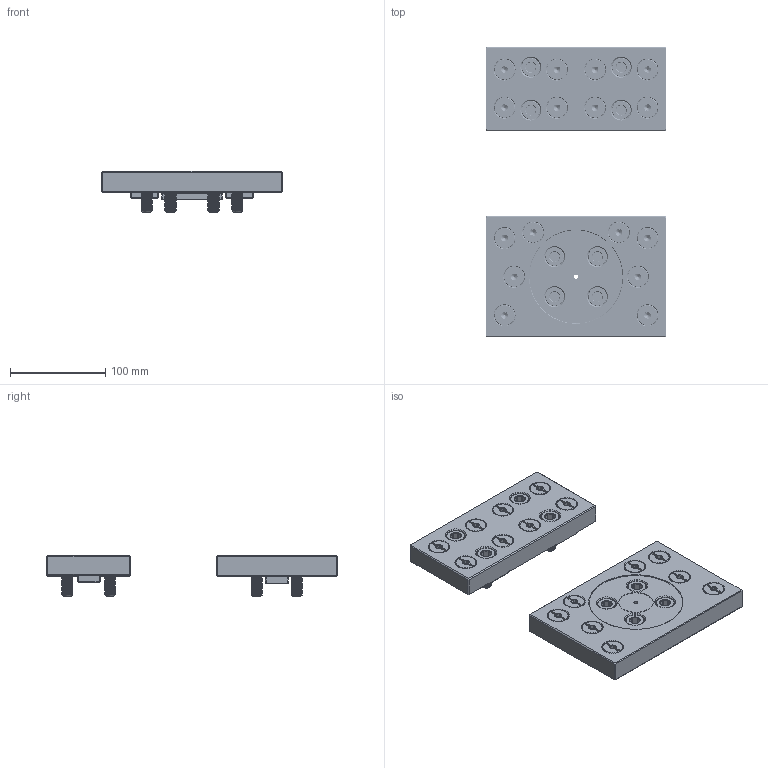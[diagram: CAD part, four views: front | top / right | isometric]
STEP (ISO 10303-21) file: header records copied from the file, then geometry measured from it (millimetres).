
FILE_DESCRIPTION(('STEP AP214'), '1');
FILE_NAME('BB.VS.130.32.010', '', ('UNSPECIFIED'), ('UNSPECIFIED'), 'C3D Converter', 'C3D Toolkit', '');
FILE_SCHEMA(('AUTOMOTIVE_DESIGN { 1 0 10303 214 3 1 1}'));
Length unit declared in the file: millimetre
Bounding box: 190 x 305 x 43.5 mm (x, y, z)
Volume: 880096 mm3; surface area: 171137.4 mm2
Topology: 2 solids, 2 shells, 1329 faces, 3376 edges, 2158 vertices
Faces by surface type: plane 691, cylinder 400, cone 206, bspline 24, torus 8
Full cylindrical faces by diameter (mm): 4.2 x1, 10 x16, 10.2 x16, 13 x8, 19.2 x8, 20 x8, 21.5 x16, 22 x16, 36 x1
Entity records: 148205 total; most frequent: CARTESIAN_POINT 108168, ORIENTED_EDGE 6192, DIRECTION 5506, EDGE_CURVE 3096, VERTEX_POINT 2118, AXIS2_PLACEMENT_3D 2056, EDGE_LOOP 1662, LINE 1394
